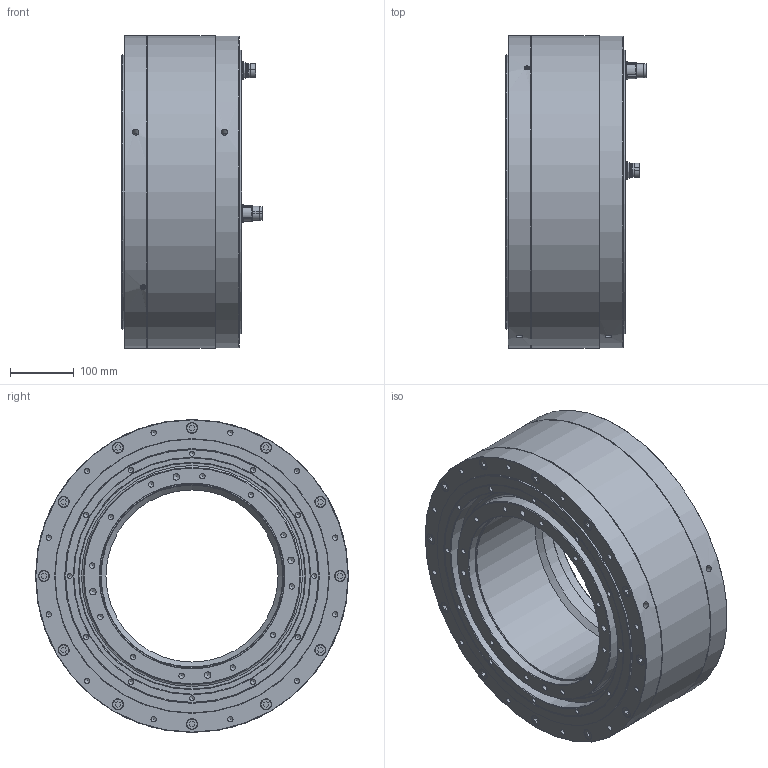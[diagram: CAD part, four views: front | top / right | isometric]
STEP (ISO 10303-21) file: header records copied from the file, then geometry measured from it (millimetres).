
FILE_DESCRIPTION( ( 'Unknown' ), '1' );
FILE_NAME( 'Q:/SKA DDR in acciaio/WEB File/SKA RT 430/3D/430CC036.stp', 'Unknown', ( 'Unknown' ), ( 'Unknown' ), 'PSStep 14.0', 'Unknown', ' ' );
FILE_SCHEMA( ( 'AUTOMOTIVE_DESIGN { 1 0 10303 214 1 1 1 1 }' ) );
Length unit declared in the file: millimetre
Products named in the file (16): Assem1; CN M23 PAN-POT BEGA 120 4 + 4 pin SpTcR; CN M23 PAN-SEG AEGA 139 17 pin SpTcR; 430VV006; Vite a brugola testa cil 8,8 -  M 2,5 x 8; Vite a brugola testa cil 12,9 -  M 10 x 50; Anello OR 3,53 D430,66-41700-oa0; Anello OR 3,53 D430,66-41700-oa1; Anello OR 3,53 D380,6-41500-oa2; Vite a brugola testa svasata 10,9 -  M  4 x 16; 430FF010; 430FC001; 430FP003; Grano senza punta M  6 x 10; 430FS024; 430GG010
Assembly tree (51 placements, depth 2):
  Assem1
    CN M23 PAN-POT BEGA 120 4 + 4 pin SpTcR
    CN M23 PAN-SEG AEGA 139 17 pin SpTcR
    430VV006
    Vite a brugola testa cil 8,8 -  M 2,5 x 8  x8
    Vite a brugola testa cil 12,9 -  M 10 x 50  x24
    Anello OR 3,53 D430,66-41700-oa0
    Anello OR 3,53 D430,66-41700-oa1
    Anello OR 3,53 D380,6-41500-oa2
    Vite a brugola testa svasata 10,9 -  M  4 x 16  x6
    430FF010
    430FC001
    430FP003
    Grano senza punta M  6 x 10  x2
    430FS024
    430GG010
Bounding box: 220.5 x 490 x 490 mm (x, y, z)
Volume: 14956589.8 mm3; surface area: 2014486.3 mm2
Topology: 51 solids, 51 shells, 1273 faces, 2917 edges, 1907 vertices
Faces by surface type: plane 563, cylinder 457, cone 217, torus 28, sphere 8
Full cylindrical faces by diameter (mm): 1.5 x4, 2 x17, 2.013 x8, 2.5 x12, 2.7 x4, 2.8 x4, 3.242 x16, 3.4 x6, 4 x8, 4.134 x12, 4.5 x6, 4.7 x8, 4.917 x2, 6 x2, 8 x12, 8.376 x96, 8.5 x12, 9 x2, 10 x32, 10.106 x4, 10.5 x36, 16 x24, 17 x2, 17.5 x24, 19.8 x2, 20 x3, 21 x2, 21.5 x2, 22 x2, 23 x2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
Entity records: 24946 total; most frequent: CARTESIAN_POINT 3617, DIRECTION 3552, ORIENTED_EDGE 2212, AXIS2_PLACEMENT_3D 1637, EDGE_LOOP 1566, FACE_OUTER_BOUND 1153, EDGE_CURVE 1106, VERTEX_POINT 1074
